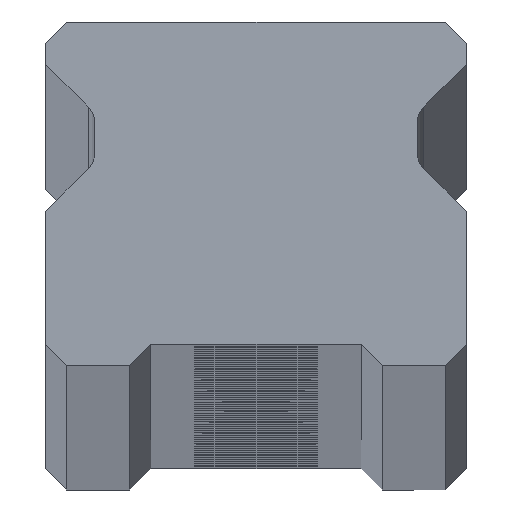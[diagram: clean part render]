
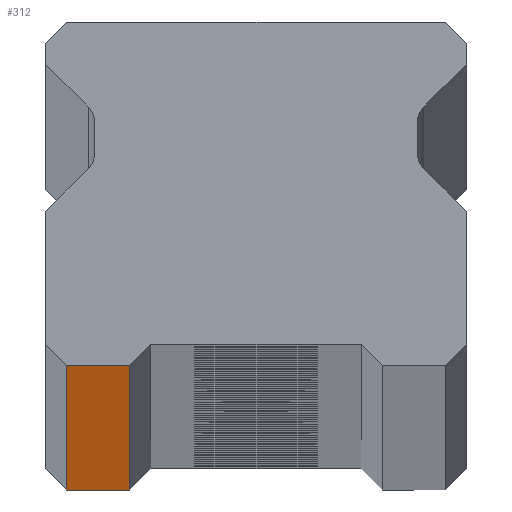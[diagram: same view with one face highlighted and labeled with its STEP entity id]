
A CAD part, top view. The second image highlights one B-rep face of the part: STEP entity #312.
In plain terms, the highlighted planar face has unit normal (0, -1, 0).
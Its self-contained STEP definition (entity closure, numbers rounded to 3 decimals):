
#312 = ADVANCED_FACE ( 'NONE', ( #2216 ), #5572, .F. ) ;
#327 = LINE ( 'NONE', #2788, #9183 ) ;
#648 = VERTEX_POINT ( 'NONE', #6846 ) ;
#931 = CARTESIAN_POINT ( 'NONE',  ( -9., 0., 1700. ) ) ;
#1098 = CARTESIAN_POINT ( 'NONE',  ( 10., 0., 1700. ) ) ;
#1109 = CARTESIAN_POINT ( 'NONE',  ( -6., 0., -1700. ) ) ;
#1133 = DIRECTION ( 'NONE',  ( -1., 0., 0. ) ) ;
#1141 = CARTESIAN_POINT ( 'NONE',  ( -9., 0., -1700. ) ) ;
#1531 = CARTESIAN_POINT ( 'NONE',  ( -6., 0., -1700. ) ) ;
#1554 = EDGE_CURVE ( 'NONE', #3130, #648, #4722, .T. ) ;
#2216 = FACE_OUTER_BOUND ( 'NONE', #8942, .T. ) ;
#2286 = VECTOR ( 'NONE', #7484, 1000. ) ;
#2311 = ORIENTED_EDGE ( 'NONE', *, *, #4183, .T. ) ;
#2515 = EDGE_CURVE ( 'NONE', #8075, #648, #3217, .T. ) ;
#2788 = CARTESIAN_POINT ( 'NONE',  ( 10., 0., -1700. ) ) ;
#3130 = VERTEX_POINT ( 'NONE', #931 ) ;
#3217 = LINE ( 'NONE', #1531, #2286 ) ;
#3891 = DIRECTION ( 'NONE',  ( 1., 0., 0. ) ) ;
#3985 = CARTESIAN_POINT ( 'NONE',  ( 10., 0., 1700. ) ) ;
#4157 = VECTOR ( 'NONE', #3891, 1000. ) ;
#4183 = EDGE_CURVE ( 'NONE', #3130, #8753, #9199, .T. ) ;
#4229 = CARTESIAN_POINT ( 'NONE',  ( -9., 0., 1700. ) ) ;
#4722 = LINE ( 'NONE', #3985, #4157 ) ;
#5268 = ORIENTED_EDGE ( 'NONE', *, *, #6033, .T. ) ;
#5572 = PLANE ( 'NONE',  #9214 ) ;
#6033 = EDGE_CURVE ( 'NONE', #8753, #8075, #327, .T. ) ;
#6261 = DIRECTION ( 'NONE',  ( 0., 1., 0. ) ) ;
#6846 = CARTESIAN_POINT ( 'NONE',  ( -6., 0., 1700. ) ) ;
#7447 = VECTOR ( 'NONE', #8817, 1000. ) ;
#7472 = ORIENTED_EDGE ( 'NONE', *, *, #2515, .T. ) ;
#7484 = DIRECTION ( 'NONE',  ( 0., 0., 1. ) ) ;
#7983 = DIRECTION ( 'NONE',  ( 1., 0., 0. ) ) ;
#8075 = VERTEX_POINT ( 'NONE', #1109 ) ;
#8191 = ORIENTED_EDGE ( 'NONE', *, *, #1554, .F. ) ;
#8753 = VERTEX_POINT ( 'NONE', #1141 ) ;
#8817 = DIRECTION ( 'NONE',  ( 0., 0., -1. ) ) ;
#8942 = EDGE_LOOP ( 'NONE', ( #5268, #7472, #8191, #2311 ) ) ;
#9183 = VECTOR ( 'NONE', #7983, 1000. ) ;
#9199 = LINE ( 'NONE', #4229, #7447 ) ;
#9214 = AXIS2_PLACEMENT_3D ( 'NONE', #1098, #6261, #1133 ) ;
